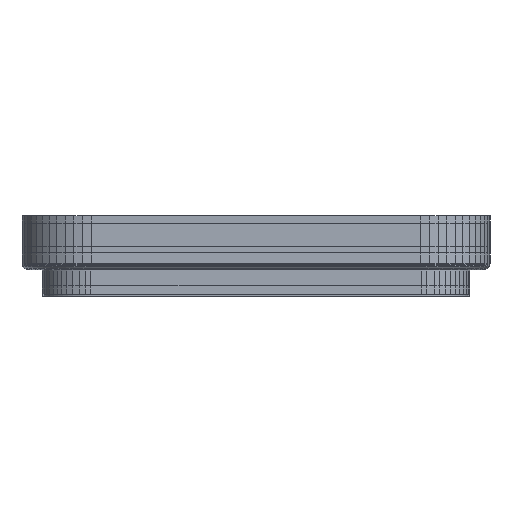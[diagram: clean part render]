
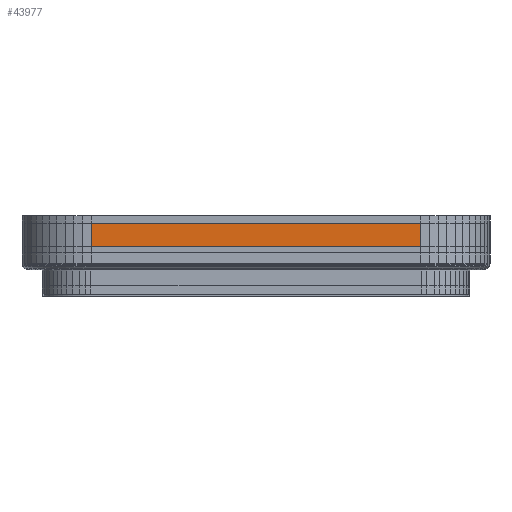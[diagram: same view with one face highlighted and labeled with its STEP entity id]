
A CAD part, front view. The second image highlights one B-rep face of the part: STEP entity #43977.
In plain terms, the highlighted planar face has unit normal (0, -1, 0).
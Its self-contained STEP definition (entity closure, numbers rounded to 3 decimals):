
#112=DIRECTION('',(-1.0,0.0,0.0));
#299=DIRECTION('',(0.0,-1.0,0.0));
#2539=DIRECTION('',(0.0,0.0,1.0));
#41199=CARTESIAN_POINT('',(26.5,-37.7,8.0));
#41200=VERTEX_POINT('',#41199);
#42320=CARTESIAN_POINT('',(-26.5,-37.7,8.0));
#42321=VERTEX_POINT('',#42320);
#42336=VECTOR('',#112,53.0);
#42337=LINE('',#41199,#42336);
#42338=EDGE_CURVE('',#41200,#42321,#42337,.T.);
#42831=CARTESIAN_POINT('',(26.5,-37.7,11.8));
#42832=VERTEX_POINT('',#42831);
#42835=VECTOR('',#2539,3.8);
#42836=LINE('',#41199,#42835);
#42837=EDGE_CURVE('',#41200,#42832,#42836,.T.);
#43950=VECTOR('',#2539,3.8);
#43951=LINE('',#42320,#43950);
#43952=CARTESIAN_POINT('',(-26.5,-37.7,11.8));
#43953=VERTEX_POINT('',#43952);
#43954=EDGE_CURVE('',#42321,#43953,#43951,.T.);
#43966=ORIENTED_EDGE('',*,*,#42338,.F.);
#43967=ORIENTED_EDGE('',*,*,#42837,.T.);
#43968=VECTOR('',#112,53.0);
#43969=LINE('',#42831,#43968);
#43970=EDGE_CURVE('',#42832,#43953,#43969,.T.);
#43971=ORIENTED_EDGE('',*,*,#43970,.T.);
#43972=ORIENTED_EDGE('',*,*,#43954,.F.);
#43973=EDGE_LOOP('',(#43966,#43967,#43971,#43972));
#43974=FACE_OUTER_BOUND('',#43973,.T.);
#43975=AXIS2_PLACEMENT_3D('',#42320,#299,#2539);
#43976=PLANE('',#43975);
#43977=ADVANCED_FACE('',(#43974),#43976,.T.);
